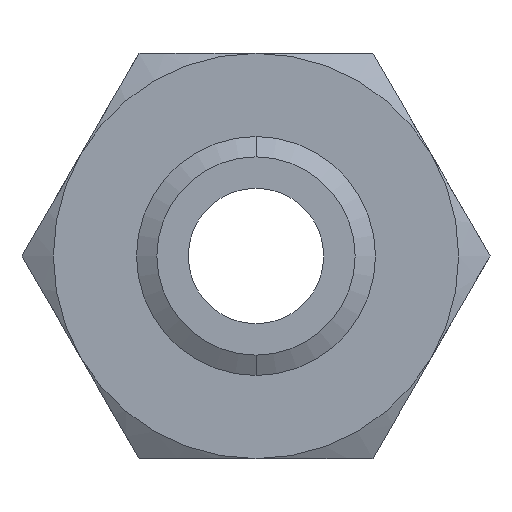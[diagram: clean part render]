
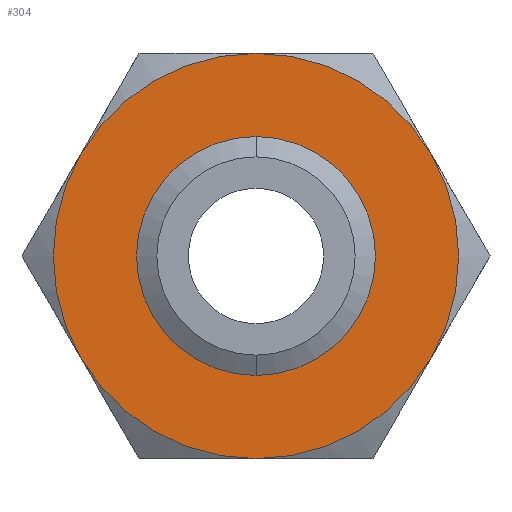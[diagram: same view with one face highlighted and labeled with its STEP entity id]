
A CAD part, front view. The second image highlights one B-rep face of the part: STEP entity #304.
In plain terms, the highlighted planar face has unit normal (0, -1, 0).
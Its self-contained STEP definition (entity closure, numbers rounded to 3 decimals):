
#302 = VERTEX_POINT ( 'NONE', #1040 ) ;
#303 = EDGE_LOOP ( 'NONE', ( #305, #315, #2227, #2225, #2226, #2228 ) ) ;
#304 = ADVANCED_FACE ( 'NONE', ( #1034, #1033 ), #1032, .F. ) ;
#305 = ORIENTED_EDGE ( 'NONE', *, *, #316, .F. ) ;
#308 = VERTEX_POINT ( 'NONE', #1085 ) ;
#315 = ORIENTED_EDGE ( 'NONE', *, *, #2215, .F. ) ;
#316 = EDGE_CURVE ( 'NONE', #308, #302, #1073, .T. ) ;
#1027 = DIRECTION ( 'NONE',  ( 0., 0., 1. ) ) ;
#1028 = DIRECTION ( 'NONE',  ( 0., 1., 0. ) ) ;
#1029 = CARTESIAN_POINT ( 'NONE',  ( 27.424, 0., -47.5 ) ) ;
#1031 = AXIS2_PLACEMENT_3D ( 'NONE', #1029, #1028, #1027 ) ;
#1032 = PLANE ( 'NONE',  #1031 ) ;
#1033 = FACE_BOUND ( 'NONE', #2232, .T. ) ;
#1034 = FACE_OUTER_BOUND ( 'NONE', #303, .T. ) ;
#1040 = CARTESIAN_POINT ( 'NONE',  ( 41.136, 0., 23.75 ) ) ;
#1069 = DIRECTION ( 'NONE',  ( 0., 0., 1. ) ) ;
#1070 = DIRECTION ( 'NONE',  ( 0., 1., 0. ) ) ;
#1071 = CARTESIAN_POINT ( 'NONE',  ( 0., 0., 0. ) ) ;
#1072 = AXIS2_PLACEMENT_3D ( 'NONE', #1071, #1070, #1069 ) ;
#1073 = CIRCLE ( 'NONE', #1072, 47.5 ) ;
#1085 = CARTESIAN_POINT ( 'NONE',  ( 0., 0., 47.5 ) ) ;
#1600 = CARTESIAN_POINT ( 'NONE',  ( 0., 0., 23.237 ) ) ;
#1658 = CARTESIAN_POINT ( 'NONE',  ( 0., 0., -23.237 ) ) ;
#1682 = DIRECTION ( 'NONE',  ( 0., 0., -1. ) ) ;
#1683 = DIRECTION ( 'NONE',  ( 0., -1., 0. ) ) ;
#1684 = CARTESIAN_POINT ( 'NONE',  ( 0., 0., 0. ) ) ;
#1685 = AXIS2_PLACEMENT_3D ( 'NONE', #1684, #1683, #1682 ) ;
#1686 = CIRCLE ( 'NONE', #1685, 23.237 ) ;
#1845 = DIRECTION ( 'NONE',  ( 0., 0., 1. ) ) ;
#1846 = DIRECTION ( 'NONE',  ( 0., 1., 0. ) ) ;
#1847 = CARTESIAN_POINT ( 'NONE',  ( 0., 0., 0. ) ) ;
#1848 = AXIS2_PLACEMENT_3D ( 'NONE', #1847, #1846, #1845 ) ;
#1849 = CIRCLE ( 'NONE', #1848, 47.5 ) ;
#1850 = CARTESIAN_POINT ( 'NONE',  ( -41.136, 0., 23.75 ) ) ;
#1851 = CARTESIAN_POINT ( 'NONE',  ( 41.136, 0., -23.75 ) ) ;
#1852 = DIRECTION ( 'NONE',  ( 0., 0., 1. ) ) ;
#1853 = DIRECTION ( 'NONE',  ( 0., 1., 0. ) ) ;
#1855 = AXIS2_PLACEMENT_3D ( 'NONE', #1860, #1853, #1852 ) ;
#1856 = CIRCLE ( 'NONE', #1855, 47.5 ) ;
#1860 = CARTESIAN_POINT ( 'NONE',  ( 0., 0., 0. ) ) ;
#1884 = DIRECTION ( 'NONE',  ( 0., 0., 1. ) ) ;
#1885 = DIRECTION ( 'NONE',  ( 0., 1., 0. ) ) ;
#1886 = CARTESIAN_POINT ( 'NONE',  ( 0., 0., 0. ) ) ;
#1887 = AXIS2_PLACEMENT_3D ( 'NONE', #1886, #1885, #1884 ) ;
#1888 = CIRCLE ( 'NONE', #1887, 47.5 ) ;
#1894 = CARTESIAN_POINT ( 'NONE',  ( 0., 0., -47.5 ) ) ;
#1895 = DIRECTION ( 'NONE',  ( 0., 0., 1. ) ) ;
#1896 = DIRECTION ( 'NONE',  ( 0., 1., 0. ) ) ;
#1897 = CARTESIAN_POINT ( 'NONE',  ( 0., 0., 0. ) ) ;
#1898 = AXIS2_PLACEMENT_3D ( 'NONE', #1897, #1896, #1895 ) ;
#1899 = CIRCLE ( 'NONE', #1898, 47.5 ) ;
#1900 = DIRECTION ( 'NONE',  ( 0., 0., 1. ) ) ;
#1901 = DIRECTION ( 'NONE',  ( 0., 1., 0. ) ) ;
#1902 = CARTESIAN_POINT ( 'NONE',  ( 0., 0., 0. ) ) ;
#1903 = AXIS2_PLACEMENT_3D ( 'NONE', #1902, #1901, #1900 ) ;
#1904 = CIRCLE ( 'NONE', #1903, 47.5 ) ;
#1905 = CARTESIAN_POINT ( 'NONE',  ( -41.136, 0., -23.75 ) ) ;
#1906 = DIRECTION ( 'NONE',  ( 0., 0., -1. ) ) ;
#1907 = DIRECTION ( 'NONE',  ( 0., -1., 0. ) ) ;
#1908 = CARTESIAN_POINT ( 'NONE',  ( 0., 0., 0. ) ) ;
#1909 = AXIS2_PLACEMENT_3D ( 'NONE', #1908, #1907, #1906 ) ;
#1910 = CIRCLE ( 'NONE', #1909, 23.237 ) ;
#2074 = VERTEX_POINT ( 'NONE', #1600 ) ;
#2075 = VERTEX_POINT ( 'NONE', #1658 ) ;
#2094 = EDGE_CURVE ( 'NONE', #2075, #2074, #1686, .T. ) ;
#2214 = ORIENTED_EDGE ( 'NONE', *, *, #2094, .F. ) ;
#2215 = EDGE_CURVE ( 'NONE', #2217, #308, #1856, .T. ) ;
#2216 = VERTEX_POINT ( 'NONE', #1851 ) ;
#2217 = VERTEX_POINT ( 'NONE', #1850 ) ;
#2218 = EDGE_CURVE ( 'NONE', #2216, #2224, #1849, .T. ) ;
#2219 = EDGE_CURVE ( 'NONE', #2074, #2075, #1910, .T. ) ;
#2220 = ORIENTED_EDGE ( 'NONE', *, *, #2219, .F. ) ;
#2221 = VERTEX_POINT ( 'NONE', #1905 ) ;
#2222 = EDGE_CURVE ( 'NONE', #2221, #2217, #1904, .T. ) ;
#2223 = EDGE_CURVE ( 'NONE', #2224, #2221, #1899, .T. ) ;
#2224 = VERTEX_POINT ( 'NONE', #1894 ) ;
#2225 = ORIENTED_EDGE ( 'NONE', *, *, #2223, .F. ) ;
#2226 = ORIENTED_EDGE ( 'NONE', *, *, #2218, .F. ) ;
#2227 = ORIENTED_EDGE ( 'NONE', *, *, #2222, .F. ) ;
#2228 = ORIENTED_EDGE ( 'NONE', *, *, #2231, .F. ) ;
#2231 = EDGE_CURVE ( 'NONE', #302, #2216, #1888, .T. ) ;
#2232 = EDGE_LOOP ( 'NONE', ( #2214, #2220 ) ) ;
